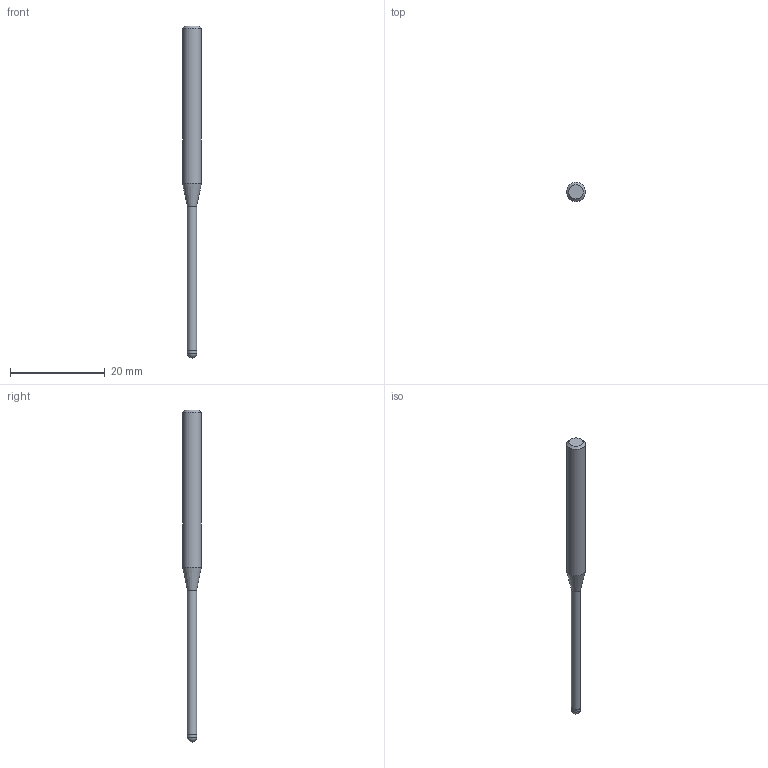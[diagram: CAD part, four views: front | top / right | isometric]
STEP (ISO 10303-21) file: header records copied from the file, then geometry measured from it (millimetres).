
FILE_DESCRIPTION((''),'2;1');
FILE_NAME('C:\Users\nsx150\AppData\Local\Temp\Mastercam 2021\ARV7HD45SN\TEMP.step','2023-06-13T16:37:57',(''),(''),'STEP Write','Mastercam 2021 ... CNC Software, Inc.','');
FILE_SCHEMA(('AUTOMOTIVE_DESIGN'));
Length unit declared in the file: millimetre
Products named in the file (1): None
Bounding box: 4 x 4 x 70 mm (x, y, z)
Volume: 543.9 mm3; surface area: 672.8 mm2
Topology: 2 solids, 2 shells, 9 faces, 14 edges, 8 vertices
Faces by surface type: plane 3, cylinder 3, cone 2, sphere 1
Full cylindrical faces by diameter (mm): 1.94 x1, 2 x1, 4 x1
Entity records: 211 total; most frequent: DIRECTION 36, CARTESIAN_POINT 25, AXIS2_PLACEMENT_3D 18, ORIENTED_EDGE 14, EDGE_LOOP 14, STYLED_ITEM 12, ADVANCED_FACE 9, FACE_BOUND 8
